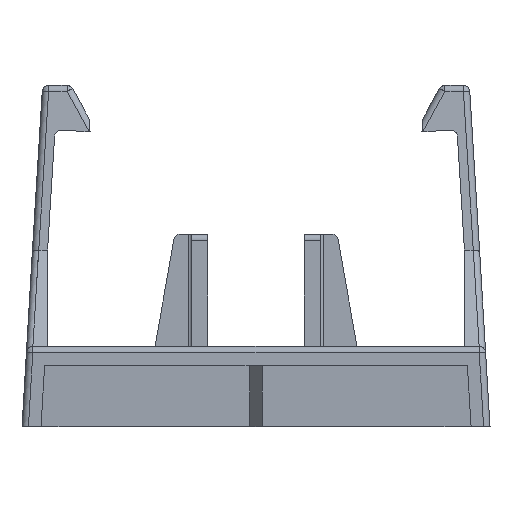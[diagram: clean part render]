
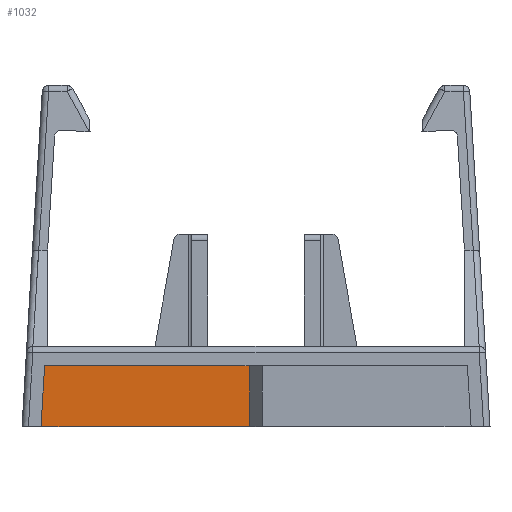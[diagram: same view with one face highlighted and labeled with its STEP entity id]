
A CAD part, left-side view. The second image highlights one B-rep face of the part: STEP entity #1032.
In plain terms, the highlighted planar face has unit normal (-0.999, 0, -0.035).
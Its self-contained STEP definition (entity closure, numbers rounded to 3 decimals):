
#1 = LINE ( 'NONE', #6201, #989 ) ;
#63 = VECTOR ( 'NONE', #6279, 1000. ) ;
#64 = LINE ( 'NONE', #6278, #63 ) ;
#202 = EDGE_LOOP ( 'NONE', ( #282, #215, #242, #274 ) ) ;
#215 = ORIENTED_EDGE ( 'NONE', *, *, #5807, .T. ) ;
#242 = ORIENTED_EDGE ( 'NONE', *, *, #4247, .F. ) ;
#274 = ORIENTED_EDGE ( 'NONE', *, *, #5838, .F. ) ;
#282 = ORIENTED_EDGE ( 'NONE', *, *, #4065, .T. ) ;
#788 = DIRECTION ( 'NONE',  ( 0., -1., 0. ) ) ;
#789 = CARTESIAN_POINT ( 'NONE',  ( -24.469, 33.546, 0. ) ) ;
#989 = VECTOR ( 'NONE', #6202, 1000. ) ;
#1032 = ADVANCED_FACE ( 'NONE', ( #2101 ), #3535, .T. ) ;
#1208 = LINE ( 'NONE', #4415, #1416 ) ;
#1416 = VECTOR ( 'NONE', #4445, 1000. ) ;
#1444 = LINE ( 'NONE', #789, #1614 ) ;
#1614 = VECTOR ( 'NONE', #788, 1000. ) ;
#1956 = AXIS2_PLACEMENT_3D ( 'NONE', #3534, #3537, #3538 ) ;
#2101 = FACE_OUTER_BOUND ( 'NONE', #202, .T. ) ;
#3073 = CARTESIAN_POINT ( 'NONE',  ( -24.469, 1.001, 0. ) ) ;
#3086 = CARTESIAN_POINT ( 'NONE',  ( -24.469, 33.546, 0. ) ) ;
#3136 = CARTESIAN_POINT ( 'NONE',  ( -24.802, 32.964, 9.5 ) ) ;
#3181 = CARTESIAN_POINT ( 'NONE',  ( -24.802, 1.001, 9.5 ) ) ;
#3370 = VERTEX_POINT ( 'NONE', #3136 ) ;
#3397 = VERTEX_POINT ( 'NONE', #3073 ) ;
#3432 = VERTEX_POINT ( 'NONE', #3086 ) ;
#3479 = VERTEX_POINT ( 'NONE', #3181 ) ;
#3534 = CARTESIAN_POINT ( 'NONE',  ( -24.802, 32.964, 9.5 ) ) ;
#3535 = PLANE ( 'NONE',  #1956 ) ;
#3537 = DIRECTION ( 'NONE',  ( -0.999, 0., -0.035 ) ) ;
#3538 = DIRECTION ( 'NONE',  ( 0.035, 0., -0.999 ) ) ;
#4065 = EDGE_CURVE ( 'NONE', #3432, #3397, #1444, .T. ) ;
#4247 = EDGE_CURVE ( 'NONE', #3370, #3479, #1208, .T. ) ;
#4415 = CARTESIAN_POINT ( 'NONE',  ( -24.802, 32.964, 9.5 ) ) ;
#4445 = DIRECTION ( 'NONE',  ( 0., -1., 0. ) ) ;
#5807 = EDGE_CURVE ( 'NONE', #3397, #3479, #64, .T. ) ;
#5838 = EDGE_CURVE ( 'NONE', #3432, #3370, #1, .T. ) ;
#6201 = CARTESIAN_POINT ( 'NONE',  ( -24.469, 33.546, 0. ) ) ;
#6202 = DIRECTION ( 'NONE',  ( -0.035, -0.061, 0.998 ) ) ;
#6278 = CARTESIAN_POINT ( 'NONE',  ( -24.469, 1.001, 0. ) ) ;
#6279 = DIRECTION ( 'NONE',  ( -0.035, 0., 0.999 ) ) ;
